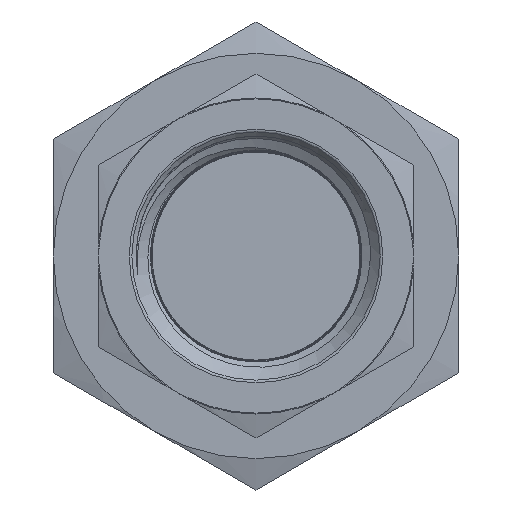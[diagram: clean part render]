
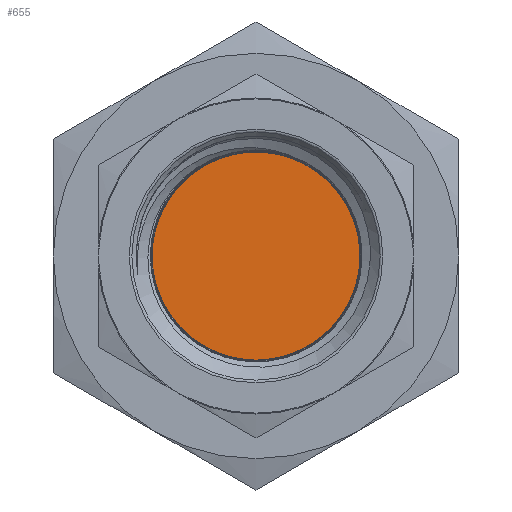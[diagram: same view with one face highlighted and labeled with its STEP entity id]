
A CAD part, left-side view. The second image highlights one B-rep face of the part: STEP entity #655.
In plain terms, the highlighted planar face has unit normal (-1, 0, 0).
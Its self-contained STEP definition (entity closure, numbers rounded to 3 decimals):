
#655 = ADVANCED_FACE( '', ( #1593 ), #1594, .F. );
#1593 = FACE_OUTER_BOUND( '', #3301, .T. );
#1594 = PLANE( '', #3302 );
#3301 = EDGE_LOOP( '', ( #7559 ) );
#3302 = AXIS2_PLACEMENT_3D( '', #7560, #7561, #7562 );
#7559 = ORIENTED_EDGE( '', *, *, #10900, .F. );
#7560 = CARTESIAN_POINT( '', ( 15.858, 0., 7.342 ) );
#7561 = DIRECTION( '', ( 1., 0., 0. ) );
#7562 = DIRECTION( '', ( 0., 0., -1. ) );
#10900 = EDGE_CURVE( '', #12652, #12652, #12653, .T. );
#12652 = VERTEX_POINT( '', #16131 );
#12653 = CIRCLE( '', #16132, 7.342 );
#16131 = CARTESIAN_POINT( '', ( 15.858, 0., -7.342 ) );
#16132 = AXIS2_PLACEMENT_3D( '', #20518, #20519, #20520 );
#20518 = CARTESIAN_POINT( '', ( 15.858, 0., 0. ) );
#20519 = DIRECTION( '', ( 1., 0., 0. ) );
#20520 = DIRECTION( '', ( 0., 0., -1. ) );
